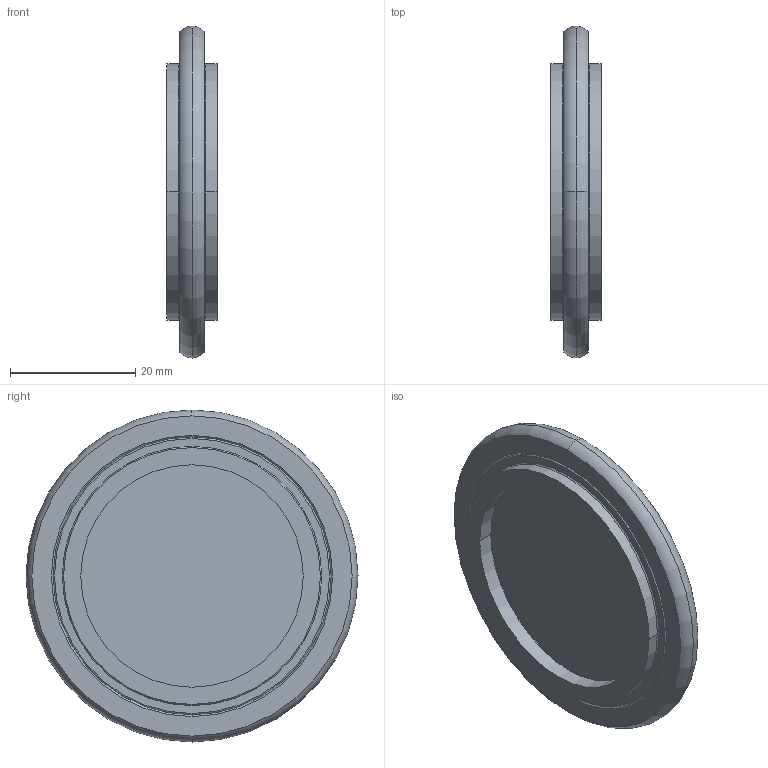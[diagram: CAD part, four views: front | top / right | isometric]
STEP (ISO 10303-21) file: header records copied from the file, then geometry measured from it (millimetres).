
FILE_DESCRIPTION((''),'2;1');
FILE_NAME('W:\211-099.stp','2003-10-08T13:13:11',('KAA'),(''),'Autodesk Inventor (R) 6.0','Autodesk Inventor (R) 6.0','');
FILE_SCHEMA(('CONFIG_CONTROL_DESIGN'));
Length unit declared in the file: millimetre
Products named in the file (1): 211-099
Bounding box: 8 x 53 x 53 mm (x, y, z)
Volume: 6432.4 mm3; surface area: 7234.3 mm2
Topology: 1 solids, 1 shells, 73 faces, 185 edges, 120 vertices
Faces by surface type: cylinder 30, plane 23, torus 16, bspline 4
Entity records: 2542 total; most frequent: CARTESIAN_POINT 555, DIRECTION 461, ORIENTED_EDGE 370, AXIS2_PLACEMENT_3D 206, EDGE_CURVE 185, CIRCLE 136, VERTEX_POINT 120, EDGE_LOOP 85
